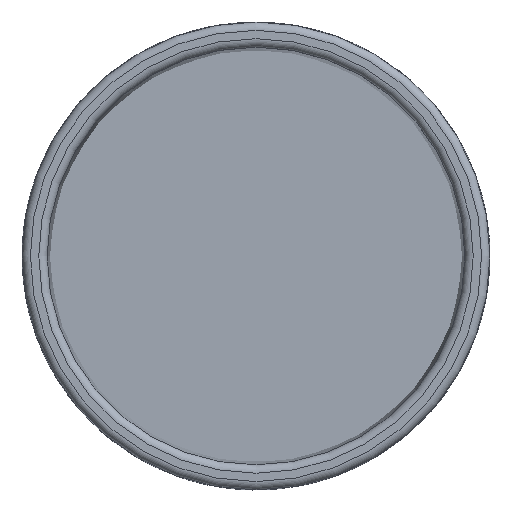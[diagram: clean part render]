
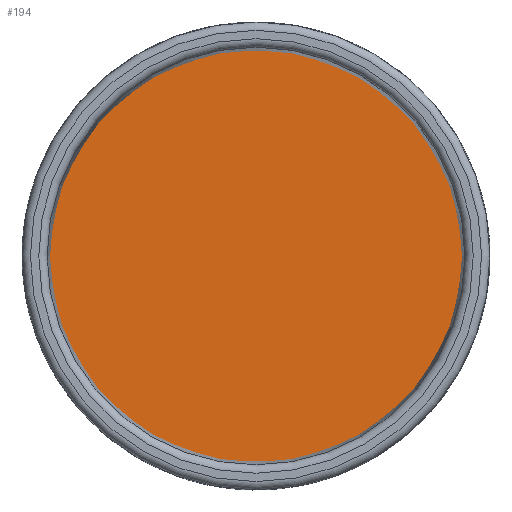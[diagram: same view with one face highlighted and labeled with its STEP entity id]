
A CAD part, top view. The second image highlights one B-rep face of the part: STEP entity #194.
In plain terms, the highlighted planar face has unit normal (0, 0, 1).
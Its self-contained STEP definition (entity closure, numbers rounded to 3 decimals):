
#194=ADVANCED_FACE('',(#3383),#3385,.T.);
#3383=FACE_BOUND('',#3384,.T.);
#3384=EDGE_LOOP('',(#3904));
#3385=PLANE('',#3386);
#3386=AXIS2_PLACEMENT_3D('',#3387,#3388,#3389);
#3387=CARTESIAN_POINT('',(0.,0.,65.));
#3388=DIRECTION('',(0.,0.,1.));
#3389=DIRECTION('',(1.,0.,0.));
#3904=ORIENTED_EDGE('',*,*,#4156,.T.);
#4156=EDGE_CURVE('',#4547,#4547,#4548,.T.);
#4547=VERTEX_POINT('',#8340);
#4548=CIRCLE('',#8341,25.);
#8340=CARTESIAN_POINT('',(25.,0.,65.));
#8341=AXIS2_PLACEMENT_3D('',#8342,#8343,#8344);
#8342=CARTESIAN_POINT('',(0.,0.,65.));
#8343=DIRECTION('',(0.,0.,1.));
#8344=DIRECTION('',(1.,0.,0.));
